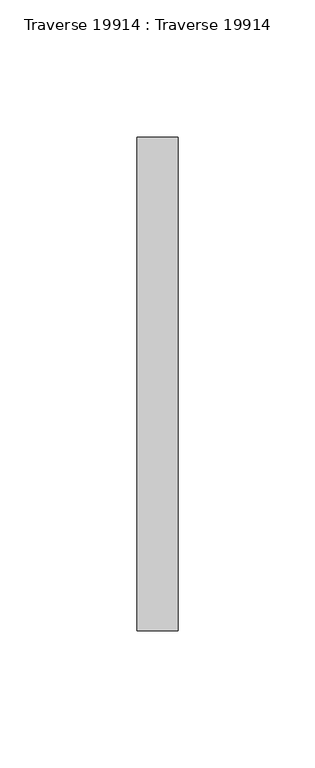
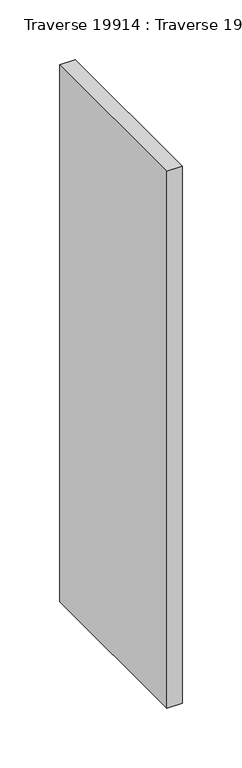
"""IFC4 building model written with IfcOpenShell, lengths in millimetres: beam geometry, Traverse 19914 : Traverse 19914."""

from ifc_helpers import new_model, si_unit, frame, origin, place, context, project, spatial, polyline, outline, extrude, source, transform, mapped, element, save


def traverse_19914_traverse_19914_1ee3b8c6(model_context):
    return source(origin(), model_context, "Body", "SweptSolid", [
        extrude(outline(polyline([(6944.8183236, 15390.0098143), (7495.05, 15390.0313952), (7495.0505883, 15375.0313952), (6944.8183236, 15375.0098143), (6944.8183236, 15390.0098143)])), frame((0.0, -8690.0, 0.0), z_axis=(0.0, 1.0, 0.0), x_axis=(0.0, 0.0, 1.0)), (0.0, 0.0, 1.0), 180.0),
    ])


if __name__ == "__main__":
    model = new_model("IFC4")
    model_context = context("Model", 3, world=origin())
    ifc_project = project(units=[si_unit("LENGTHUNIT", "METRE", prefix="MILLI")], contexts=[model_context])
    site = spatial("IfcSite", under=ifc_project)
    building = spatial("IfcBuilding", under=site)
    placement = place(None, origin())
    traverse_19914_traverse_19914_shape = traverse_19914_traverse_19914_1ee3b8c6(model_context)
    element("IfcBeam", 1, ObjectType="Traverse 19914 : Traverse 19914", at=placement, inside=building, context=model_context, shape_type="MappedRepresentation", body=[
        mapped(traverse_19914_traverse_19914_shape, transform((0.0, 0.0, 0.0), x_axis=(1.0, 0.0, 0.0), y_axis=(0.0, 1.0, 0.0), z_axis=(0.0, 0.0, 1.0))),
    ])
    save(model, "model.ifc")
